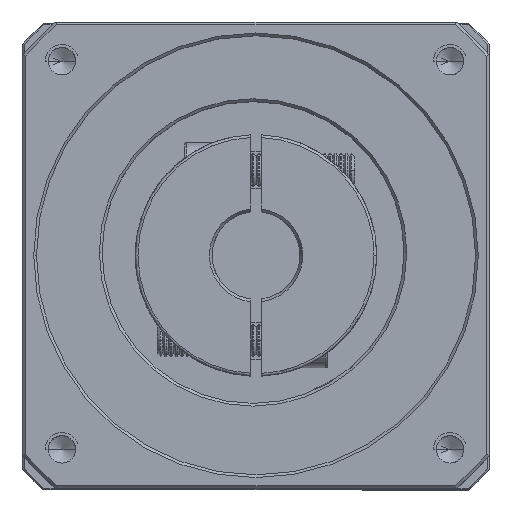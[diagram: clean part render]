
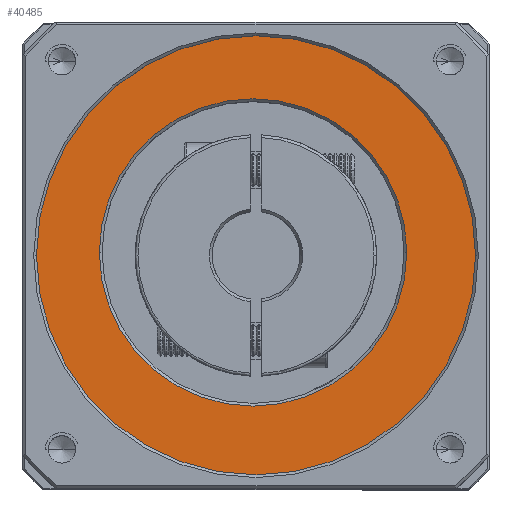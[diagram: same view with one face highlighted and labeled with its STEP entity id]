
A CAD part, top view. The second image highlights one B-rep face of the part: STEP entity #40485.
In plain terms, the highlighted planar face has unit normal (0, 0, 1).
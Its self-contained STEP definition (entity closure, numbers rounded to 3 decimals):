
#4822 = DIRECTION ( 'NONE',  ( 1., 0., 0. ) ) ;
#4943 = CARTESIAN_POINT ( 'NONE',  ( -14.367, 30.419, -1.826 ) ) ;
#7430 = AXIS2_PLACEMENT_3D ( 'NONE', #40651, #11401, #52425 ) ;
#9954 = CIRCLE ( 'NONE', #50211, 40. ) ;
#11401 = DIRECTION ( 'NONE',  ( 0., 0., 1. ) ) ;
#17107 = FACE_OUTER_BOUND ( 'NONE', #90121, .T. ) ;
#19697 = PLANE ( 'NONE',  #7430 ) ;
#23345 = FACE_BOUND ( 'NONE', #79227, .T. ) ;
#27388 = VERTEX_POINT ( 'NONE', #4943 ) ;
#29861 = CARTESIAN_POINT ( 'NONE',  ( -42.367, 30.419, -1.826 ) ) ;
#34605 = DIRECTION ( 'NONE',  ( 0., 0., 1. ) ) ;
#40485 = ADVANCED_FACE ( 'NONE', ( #17107, #23345 ), #19697, .T. ) ;
#40629 = ORIENTED_EDGE ( 'NONE', *, *, #46237, .T. ) ;
#40651 = CARTESIAN_POINT ( 'NONE',  ( -41.825, 29.885, -1.826 ) ) ;
#41198 = DIRECTION ( 'NONE',  ( 1., 0., 0. ) ) ;
#43003 = DIRECTION ( 'NONE',  ( 0., 0., -1. ) ) ;
#44643 = DIRECTION ( 'NONE',  ( 1., 0., 0. ) ) ;
#46237 = EDGE_CURVE ( 'NONE', #27388, #107902, #102633, .T. ) ;
#47936 = ORIENTED_EDGE ( 'NONE', *, *, #67450, .T. ) ;
#50211 = AXIS2_PLACEMENT_3D ( 'NONE', #64723, #34605, #44643 ) ;
#52425 = DIRECTION ( 'NONE',  ( 1., 0., 0. ) ) ;
#57651 = CARTESIAN_POINT ( 'NONE',  ( -1.825, 29.885, -1.826 ) ) ;
#63976 = CIRCLE ( 'NONE', #81407, 28. ) ;
#64723 = CARTESIAN_POINT ( 'NONE',  ( -41.825, 29.885, -1.826 ) ) ;
#65931 = AXIS2_PLACEMENT_3D ( 'NONE', #91535, #43003, #72719 ) ;
#67450 = EDGE_CURVE ( 'NONE', #92545, #73566, #9954, .T. ) ;
#69273 = EDGE_CURVE ( 'NONE', #107902, #27388, #63976, .T. ) ;
#72719 = DIRECTION ( 'NONE',  ( 1., 0., 0. ) ) ;
#73566 = VERTEX_POINT ( 'NONE', #119823 ) ;
#73825 = EDGE_CURVE ( 'NONE', #73566, #92545, #109372, .T. ) ;
#79227 = EDGE_LOOP ( 'NONE', ( #40629, #85427 ) ) ;
#81390 = DIRECTION ( 'NONE',  ( 0., 0., -1. ) ) ;
#81407 = AXIS2_PLACEMENT_3D ( 'NONE', #29861, #81390, #41198 ) ;
#85427 = ORIENTED_EDGE ( 'NONE', *, *, #69273, .T. ) ;
#86368 = ORIENTED_EDGE ( 'NONE', *, *, #73825, .T. ) ;
#90121 = EDGE_LOOP ( 'NONE', ( #47936, #86368 ) ) ;
#90439 = CARTESIAN_POINT ( 'NONE',  ( -70.367, 30.419, -1.826 ) ) ;
#91535 = CARTESIAN_POINT ( 'NONE',  ( -42.367, 30.419, -1.826 ) ) ;
#92545 = VERTEX_POINT ( 'NONE', #57651 ) ;
#102633 = CIRCLE ( 'NONE', #65931, 28. ) ;
#104466 = DIRECTION ( 'NONE',  ( 0., 0., 1. ) ) ;
#107902 = VERTEX_POINT ( 'NONE', #90439 ) ;
#109372 = CIRCLE ( 'NONE', #112287, 40. ) ;
#112287 = AXIS2_PLACEMENT_3D ( 'NONE', #115385, #104466, #4822 ) ;
#115385 = CARTESIAN_POINT ( 'NONE',  ( -41.825, 29.885, -1.826 ) ) ;
#119823 = CARTESIAN_POINT ( 'NONE',  ( -81.825, 29.885, -1.826 ) ) ;
